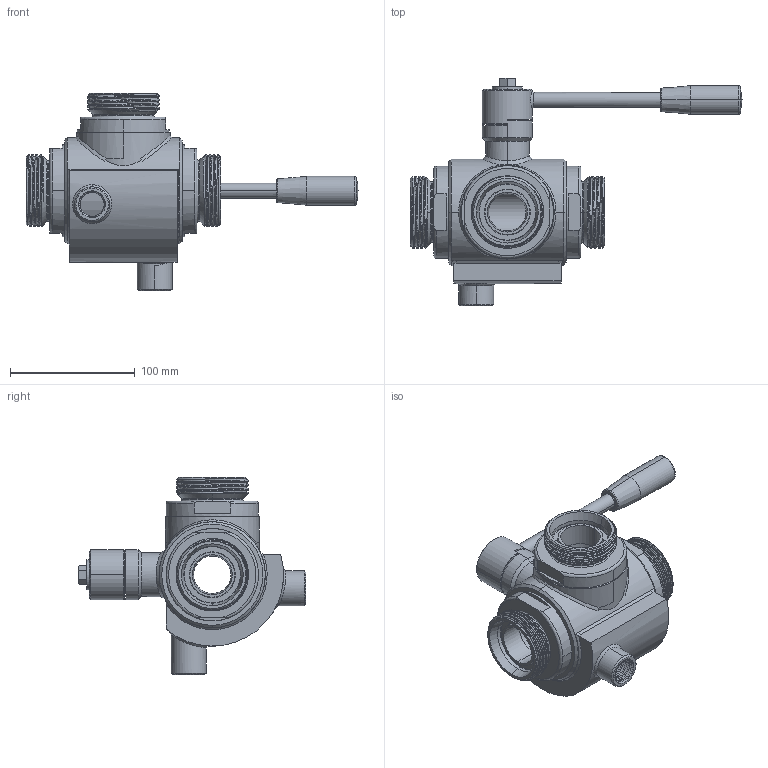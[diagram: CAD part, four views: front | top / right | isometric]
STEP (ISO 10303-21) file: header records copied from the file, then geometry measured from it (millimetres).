
FILE_DESCRIPTION((''),'2;1');
FILE_NAME('300125C63010_SW0001','2026-05-15T10:08:36',('tecnico2'),('CDM Tecnoconsulting'),'CREO PARAMETRIC BY PTC INC, 2024063','CREO PARAMETRIC BY PTC INC, 2024063','');
FILE_SCHEMA(('CONFIG_CONTROL_DESIGN','SHAPE_APPEARANCE_LAYERS_GROUPS'));
Products named in the file (1): 300125C63010_SW0001
Bounding box: 266 x 182.5 x 158 mm (x, y, z)
Volume: 750878.8 mm3; surface area: 201884.5 mm2
Topology: 1 solids, 1 shells, 1341 faces, 3606 edges, 2313 vertices
Faces by surface type: plane 541, cylinder 301, extrusion 167, cone 140, bspline 128, torus 60, sphere 4
Entity records: 133337 total; most frequent: CARTESIAN_POINT 84605, ORIENTED_EDGE 7176, DIRECTION 5449, PRESENTATION_STYLE_ASSIGNMENT 4587, STYLED_ITEM 3756, CURVE_STYLE 3755, EDGE_CURVE 3588, VERTEX_POINT 2313
